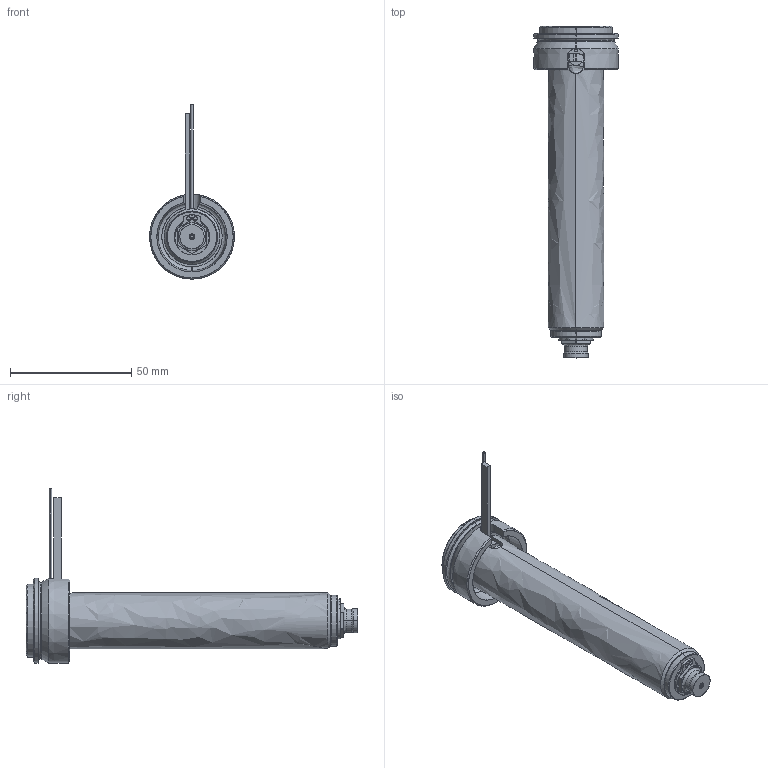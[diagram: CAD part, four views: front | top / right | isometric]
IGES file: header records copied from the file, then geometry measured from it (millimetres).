
Start section: SolidWorks IGES file using analytic representation for surfaces
Global section: file name: C:\Documents and Settings\ws-20\Desktop\TEM\UGEP3153-M-A-0 [Øf-1.10 P-0 ØC-7.0].IGS; native system: SolidWorks 2012; preprocessor: SolidWorks 2012; author: ws-20; date: 120404.082231; units: millimetre
Bounding box: 35 x 137 x 71.9 mm (x, y, z)
Surface area: 27438.1 mm2 (no closed solid volume)
Topology: 0 solids, 0 shells, 124 faces, 1798 edges, 1798 vertices
Faces by surface type: revolution 75, bspline 49
